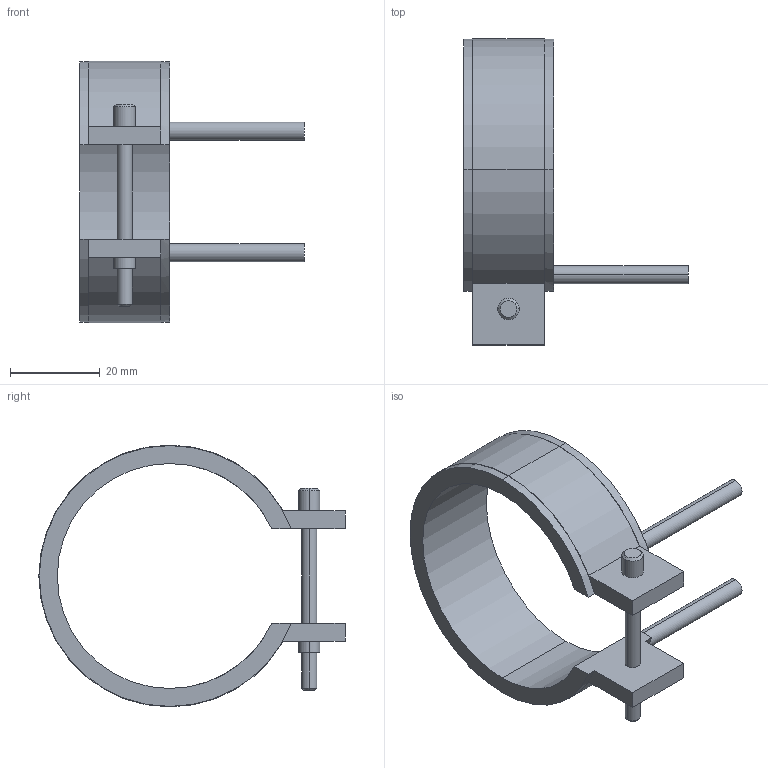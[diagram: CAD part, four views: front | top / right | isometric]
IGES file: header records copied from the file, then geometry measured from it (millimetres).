
Start section: START RECORD GO HERE.
Global section: file name: 14050020.igs; native system: DASSAULT SYSTEMES CATIA V5 R20 - www.3ds.com; preprocessor: CATIA Version 5 Release 20 ; author: Utente; organization: NB04-ASUS; date: 20210331.135608; units: millimetre
Bounding box: 50 x 68.1 x 58.2 mm (x, y, z)
Surface area: 9486.5 mm2 (no closed solid volume)
Topology: 0 solids, 0 shells, 45 faces, 232 edges, 232 vertices
Faces by surface type: revolution 28, plane 17
